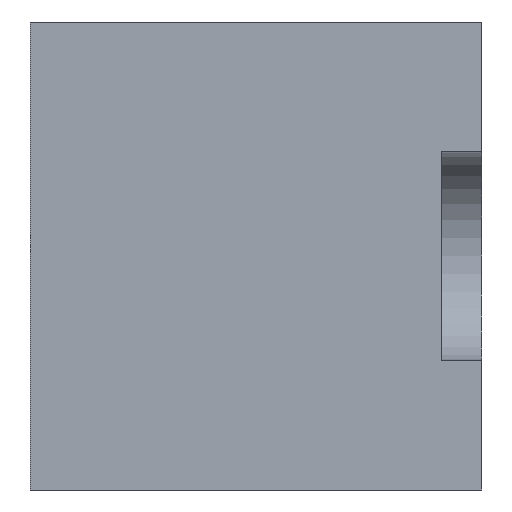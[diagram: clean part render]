
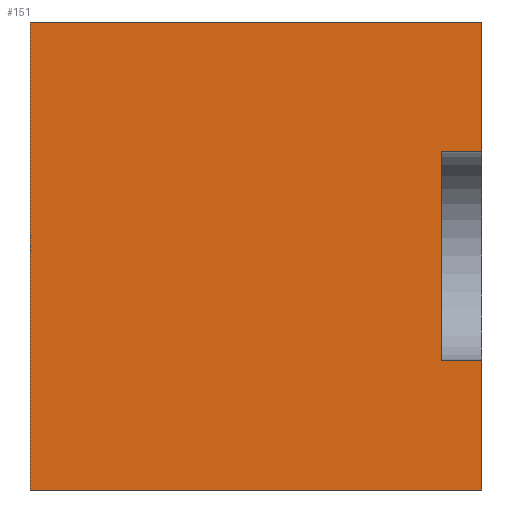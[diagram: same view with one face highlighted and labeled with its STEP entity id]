
A CAD part, left-side view. The second image highlights one B-rep face of the part: STEP entity #151.
In plain terms, the highlighted planar face has unit normal (-1, 0, 0).
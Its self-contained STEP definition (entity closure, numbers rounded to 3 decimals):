
#5 = ORIENTED_EDGE ( 'NONE', *, *, #370, .F. ) ;
#13 = CARTESIAN_POINT ( 'NONE',  ( -39., 56., 29. ) ) ;
#19 = VECTOR ( 'NONE', #389, 1000. ) ;
#23 = DIRECTION ( 'NONE',  ( 0., -1., 0. ) ) ;
#32 = VECTOR ( 'NONE', #383, 1000. ) ;
#33 = ORIENTED_EDGE ( 'NONE', *, *, #431, .T. ) ;
#34 = DIRECTION ( 'NONE',  ( 0., -1., 0. ) ) ;
#46 = ORIENTED_EDGE ( 'NONE', *, *, #351, .F. ) ;
#65 = CARTESIAN_POINT ( 'NONE',  ( -39., 56., -29. ) ) ;
#72 = CARTESIAN_POINT ( 'NONE',  ( -39., 56., -29. ) ) ;
#75 = VECTOR ( 'NONE', #23, 1000. ) ;
#84 = ORIENTED_EDGE ( 'NONE', *, *, #191, .T. ) ;
#98 = EDGE_CURVE ( 'NONE', #369, #173, #230, .T. ) ;
#108 = DIRECTION ( 'NONE',  ( 0., -1., 0. ) ) ;
#112 = ORIENTED_EDGE ( 'NONE', *, *, #459, .T. ) ;
#116 = CARTESIAN_POINT ( 'NONE',  ( -39., 0., 13. ) ) ;
#122 = VERTEX_POINT ( 'NONE', #13 ) ;
#135 = DIRECTION ( 'NONE',  ( 0., 0., 1. ) ) ;
#141 = CARTESIAN_POINT ( 'NONE',  ( -39., 5., -13. ) ) ;
#147 = CARTESIAN_POINT ( 'NONE',  ( -39., 56., -29. ) ) ;
#151 = ADVANCED_FACE ( 'NONE', ( #405 ), #198, .F. ) ;
#155 = DIRECTION ( 'NONE',  ( 0., 0., 1. ) ) ;
#156 = ORIENTED_EDGE ( 'NONE', *, *, #421, .F. ) ;
#161 = DIRECTION ( 'NONE',  ( 0., 0., -1. ) ) ;
#163 = EDGE_CURVE ( 'NONE', #456, #122, #537, .T. ) ;
#164 = VERTEX_POINT ( 'NONE', #359 ) ;
#173 = VERTEX_POINT ( 'NONE', #116 ) ;
#176 = LINE ( 'NONE', #342, #32 ) ;
#187 = VERTEX_POINT ( 'NONE', #410 ) ;
#191 = EDGE_CURVE ( 'NONE', #456, #164, #443, .T. ) ;
#198 = PLANE ( 'NONE',  #276 ) ;
#210 = EDGE_LOOP ( 'NONE', ( #46, #229, #33, #5, #212, #84, #112, #156 ) ) ;
#212 = ORIENTED_EDGE ( 'NONE', *, *, #163, .F. ) ;
#214 = VECTOR ( 'NONE', #155, 1000. ) ;
#229 = ORIENTED_EDGE ( 'NONE', *, *, #98, .T. ) ;
#230 = LINE ( 'NONE', #401, #75 ) ;
#249 = CARTESIAN_POINT ( 'NONE',  ( -39., 56., 29. ) ) ;
#254 = LINE ( 'NONE', #513, #396 ) ;
#269 = VERTEX_POINT ( 'NONE', #141 ) ;
#271 = VECTOR ( 'NONE', #108, 1000. ) ;
#276 = AXIS2_PLACEMENT_3D ( 'NONE', #72, #451, #444 ) ;
#292 = CARTESIAN_POINT ( 'NONE',  ( -39., 5., 13. ) ) ;
#294 = LINE ( 'NONE', #426, #19 ) ;
#334 = LINE ( 'NONE', #492, #533 ) ;
#342 = CARTESIAN_POINT ( 'NONE',  ( -39., 5., -13. ) ) ;
#351 = EDGE_CURVE ( 'NONE', #369, #269, #334, .T. ) ;
#359 = CARTESIAN_POINT ( 'NONE',  ( -39., 0., -29. ) ) ;
#369 = VERTEX_POINT ( 'NONE', #292 ) ;
#370 = EDGE_CURVE ( 'NONE', #122, #469, #409, .T. ) ;
#383 = DIRECTION ( 'NONE',  ( 0., -1., 0. ) ) ;
#389 = DIRECTION ( 'NONE',  ( 0., 0., 1. ) ) ;
#396 = VECTOR ( 'NONE', #135, 1000. ) ;
#401 = CARTESIAN_POINT ( 'NONE',  ( -39., 5., 13. ) ) ;
#405 = FACE_OUTER_BOUND ( 'NONE', #210, .T. ) ;
#409 = LINE ( 'NONE', #249, #543 ) ;
#410 = CARTESIAN_POINT ( 'NONE',  ( -39., 0., -13. ) ) ;
#421 = EDGE_CURVE ( 'NONE', #269, #187, #176, .T. ) ;
#426 = CARTESIAN_POINT ( 'NONE',  ( -39., 0., -29. ) ) ;
#429 = CARTESIAN_POINT ( 'NONE',  ( -39., 56., -29. ) ) ;
#431 = EDGE_CURVE ( 'NONE', #173, #469, #294, .T. ) ;
#443 = LINE ( 'NONE', #65, #271 ) ;
#444 = DIRECTION ( 'NONE',  ( 0., 0., -1. ) ) ;
#451 = DIRECTION ( 'NONE',  ( 1., 0., 0. ) ) ;
#456 = VERTEX_POINT ( 'NONE', #429 ) ;
#459 = EDGE_CURVE ( 'NONE', #164, #187, #254, .T. ) ;
#469 = VERTEX_POINT ( 'NONE', #517 ) ;
#492 = CARTESIAN_POINT ( 'NONE',  ( -39., 5., -13. ) ) ;
#513 = CARTESIAN_POINT ( 'NONE',  ( -39., 0., -29. ) ) ;
#517 = CARTESIAN_POINT ( 'NONE',  ( -39., 0., 29. ) ) ;
#533 = VECTOR ( 'NONE', #161, 1000. ) ;
#537 = LINE ( 'NONE', #147, #214 ) ;
#543 = VECTOR ( 'NONE', #34, 1000. ) ;
